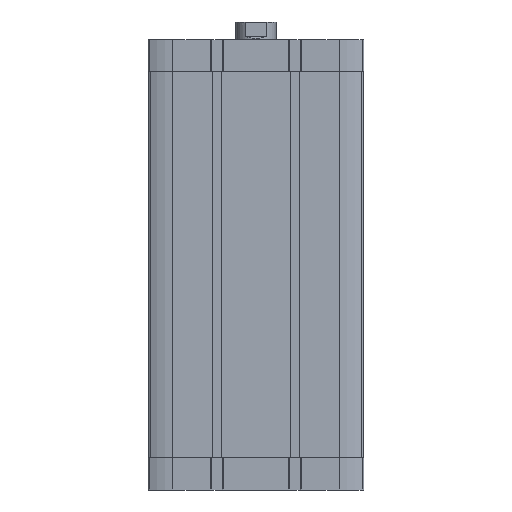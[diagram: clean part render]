
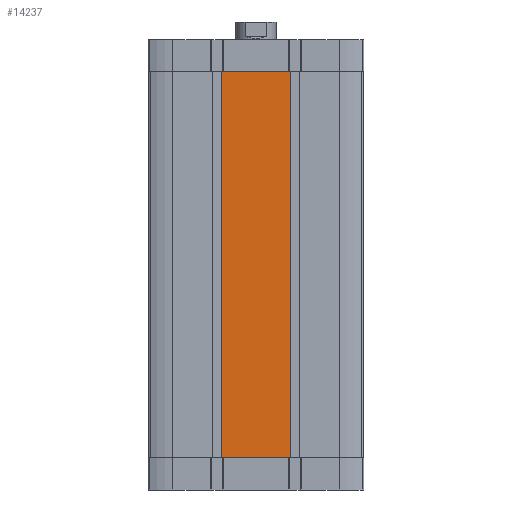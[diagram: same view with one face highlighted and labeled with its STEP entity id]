
A CAD part, front view. The second image highlights one B-rep face of the part: STEP entity #14237.
In plain terms, the highlighted planar face has unit normal (0, -1, 0).
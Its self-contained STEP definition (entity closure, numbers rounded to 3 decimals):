
#24 = DIRECTION ( 'NONE',  ( 1., 0., 0. ) ) ;
#354 = VECTOR ( 'NONE', #6374, 1000. ) ;
#372 = DIRECTION ( 'NONE',  ( 0., 0., 1. ) ) ;
#573 = VECTOR ( 'NONE', #9478, 1000. ) ;
#580 = VERTEX_POINT ( 'NONE', #5489 ) ;
#943 = CARTESIAN_POINT ( 'NONE',  ( -67., -67., -261. ) ) ;
#1166 = ORIENTED_EDGE ( 'NONE', *, *, #6181, .T. ) ;
#1238 = CARTESIAN_POINT ( 'NONE',  ( -67., -67., -20. ) ) ;
#1786 = EDGE_CURVE ( 'NONE', #16734, #16671, #3325, .T. ) ;
#1875 = LINE ( 'NONE', #16241, #7450 ) ;
#3325 = LINE ( 'NONE', #5859, #8909 ) ;
#4227 = EDGE_CURVE ( 'NONE', #6896, #13593, #8560, .T. ) ;
#4415 = LINE ( 'NONE', #5738, #573 ) ;
#4451 = EDGE_CURVE ( 'NONE', #17161, #16671, #16011, .T. ) ;
#4675 = DIRECTION ( 'NONE',  ( 1., 0., 0. ) ) ;
#5489 = CARTESIAN_POINT ( 'NONE',  ( -20.687, -67., -20. ) ) ;
#5738 = CARTESIAN_POINT ( 'NONE',  ( -67., -67., -261. ) ) ;
#5859 = CARTESIAN_POINT ( 'NONE',  ( 21.3, -67., -261. ) ) ;
#6181 = EDGE_CURVE ( 'NONE', #6896, #16830, #6258, .T. ) ;
#6258 = LINE ( 'NONE', #943, #11877 ) ;
#6374 = DIRECTION ( 'NONE',  ( 1., 0., 0. ) ) ;
#6492 = DIRECTION ( 'NONE',  ( 0., 0., -1. ) ) ;
#6527 = CARTESIAN_POINT ( 'NONE',  ( -20.687, -67., -261. ) ) ;
#6544 = EDGE_CURVE ( 'NONE', #580, #17161, #1875, .T. ) ;
#6896 = VERTEX_POINT ( 'NONE', #13513 ) ;
#6999 = CARTESIAN_POINT ( 'NONE',  ( -21.3, -67., -261. ) ) ;
#7324 = CARTESIAN_POINT ( 'NONE',  ( 21.3, -67., -20. ) ) ;
#7337 = ORIENTED_EDGE ( 'NONE', *, *, #14527, .T. ) ;
#7450 = VECTOR ( 'NONE', #12326, 1000. ) ;
#7568 = LINE ( 'NONE', #14333, #10322 ) ;
#7779 = ORIENTED_EDGE ( 'NONE', *, *, #15303, .F. ) ;
#7805 = CARTESIAN_POINT ( 'NONE',  ( 20.687, -67., -20. ) ) ;
#8482 = DIRECTION ( 'NONE',  ( 0., 0., 1. ) ) ;
#8560 = LINE ( 'NONE', #6999, #12671 ) ;
#8573 = VERTEX_POINT ( 'NONE', #13344 ) ;
#8719 = CARTESIAN_POINT ( 'NONE',  ( 21.3, -67., -261. ) ) ;
#8909 = VECTOR ( 'NONE', #372, 1000. ) ;
#9145 = LINE ( 'NONE', #10284, #354 ) ;
#9478 = DIRECTION ( 'NONE',  ( 1., 0., 0. ) ) ;
#9578 = FACE_OUTER_BOUND ( 'NONE', #14119, .T. ) ;
#9885 = ORIENTED_EDGE ( 'NONE', *, *, #16932, .T. ) ;
#9900 = CARTESIAN_POINT ( 'NONE',  ( -21.3, -67., -20. ) ) ;
#10284 = CARTESIAN_POINT ( 'NONE',  ( -67., -67., -20. ) ) ;
#10322 = VECTOR ( 'NONE', #11644, 1000. ) ;
#10784 = CARTESIAN_POINT ( 'NONE',  ( -67., -67., -261. ) ) ;
#10972 = PLANE ( 'NONE',  #15876 ) ;
#11480 = ORIENTED_EDGE ( 'NONE', *, *, #6544, .F. ) ;
#11644 = DIRECTION ( 'NONE',  ( 1., 0., 0. ) ) ;
#11877 = VECTOR ( 'NONE', #4675, 1000. ) ;
#12326 = DIRECTION ( 'NONE',  ( 1., 0., 0. ) ) ;
#12671 = VECTOR ( 'NONE', #8482, 1000. ) ;
#13344 = CARTESIAN_POINT ( 'NONE',  ( 20.687, -67., -261. ) ) ;
#13513 = CARTESIAN_POINT ( 'NONE',  ( -21.3, -67., -261. ) ) ;
#13593 = VERTEX_POINT ( 'NONE', #9900 ) ;
#14047 = ORIENTED_EDGE ( 'NONE', *, *, #1786, .T. ) ;
#14119 = EDGE_LOOP ( 'NONE', ( #14968, #1166, #7337, #9885, #14047, #16889, #11480, #7779 ) ) ;
#14237 = ADVANCED_FACE ( 'NONE', ( #9578 ), #10972, .T. ) ;
#14333 = CARTESIAN_POINT ( 'NONE',  ( -21.3, -67., -261. ) ) ;
#14527 = EDGE_CURVE ( 'NONE', #16830, #8573, #7568, .T. ) ;
#14968 = ORIENTED_EDGE ( 'NONE', *, *, #4227, .F. ) ;
#15303 = EDGE_CURVE ( 'NONE', #13593, #580, #9145, .T. ) ;
#15775 = DIRECTION ( 'NONE',  ( 0., -1., 0. ) ) ;
#15876 = AXIS2_PLACEMENT_3D ( 'NONE', #10784, #15775, #6492 ) ;
#16011 = LINE ( 'NONE', #1238, #16294 ) ;
#16241 = CARTESIAN_POINT ( 'NONE',  ( -21.3, -67., -20. ) ) ;
#16294 = VECTOR ( 'NONE', #24, 1000. ) ;
#16671 = VERTEX_POINT ( 'NONE', #7324 ) ;
#16734 = VERTEX_POINT ( 'NONE', #8719 ) ;
#16830 = VERTEX_POINT ( 'NONE', #6527 ) ;
#16889 = ORIENTED_EDGE ( 'NONE', *, *, #4451, .F. ) ;
#16932 = EDGE_CURVE ( 'NONE', #8573, #16734, #4415, .T. ) ;
#17161 = VERTEX_POINT ( 'NONE', #7805 ) ;
